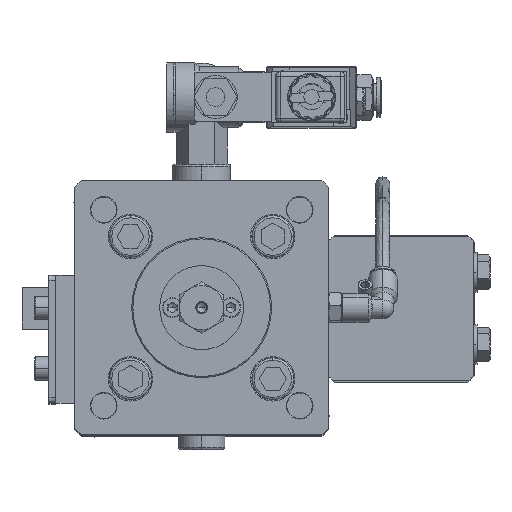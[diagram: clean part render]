
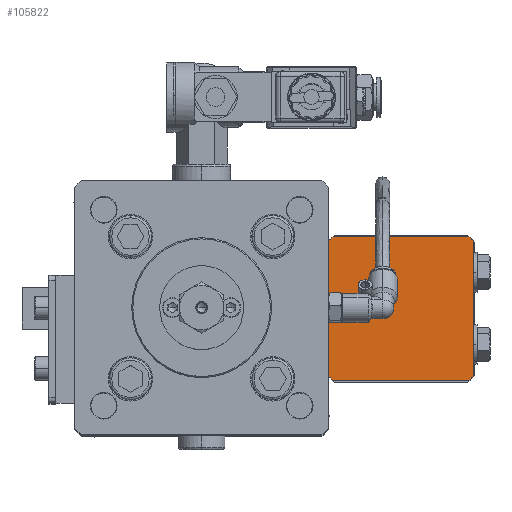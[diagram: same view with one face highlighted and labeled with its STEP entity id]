
A CAD part, top view. The second image highlights one B-rep face of the part: STEP entity #105822.
In plain terms, the highlighted planar face has unit normal (0, 0, 1) as drawn and (0, -1, 0) by its records, which use the part's own axes.
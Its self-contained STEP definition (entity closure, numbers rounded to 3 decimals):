
#701 = CARTESIAN_POINT ( 'NONE',  ( -31., 0., -29.073 ) ) ;
#2172 = CIRCLE ( 'NONE', #53087, 42.5 ) ;
#4405 = VERTEX_POINT ( 'NONE', #38820 ) ;
#13308 = ORIENTED_EDGE ( 'NONE', *, *, #70303, .F. ) ;
#13578 = EDGE_CURVE ( 'NONE', #4405, #105820, #97935, .T. ) ;
#17383 = DIRECTION ( 'NONE',  ( 0., -1., 0. ) ) ;
#17457 = EDGE_CURVE ( 'NONE', #65065, #70019, #107619, .T. ) ;
#18234 = AXIS2_PLACEMENT_3D ( 'NONE', #67158, #17383, #75472 ) ;
#19890 = CARTESIAN_POINT ( 'NONE',  ( 31., 0., -29.073 ) ) ;
#21845 = AXIS2_PLACEMENT_3D ( 'NONE', #86879, #78921, #29291 ) ;
#21950 = CARTESIAN_POINT ( 'NONE',  ( 0., 0., 0. ) ) ;
#24406 = ORIENTED_EDGE ( 'NONE', *, *, #25711, .F. ) ;
#25711 = EDGE_CURVE ( 'NONE', #44135, #80288, #79229, .T. ) ;
#26818 = DIRECTION ( 'NONE',  ( 0., 0., -1. ) ) ;
#28920 = CARTESIAN_POINT ( 'NONE',  ( -31., 0., 29.073 ) ) ;
#29291 = DIRECTION ( 'NONE',  ( 0., 0., 1. ) ) ;
#30392 = DIRECTION ( 'NONE',  ( 0., 0., 1. ) ) ;
#36309 = VERTEX_POINT ( 'NONE', #104358 ) ;
#36548 = ORIENTED_EDGE ( 'NONE', *, *, #87971, .F. ) ;
#36909 = DIRECTION ( 'NONE',  ( 0., -1., 0. ) ) ;
#37249 = EDGE_LOOP ( 'NONE', ( #55596, #13308, #43866, #94617, #90821, #24406, #104939, #36548 ) ) ;
#37293 = CARTESIAN_POINT ( 'NONE',  ( 0., 0., 0. ) ) ;
#38820 = CARTESIAN_POINT ( 'NONE',  ( -29.073, 0., 31. ) ) ;
#42382 = VECTOR ( 'NONE', #68903, 1000. ) ;
#43866 = ORIENTED_EDGE ( 'NONE', *, *, #17457, .T. ) ;
#44135 = VERTEX_POINT ( 'NONE', #62785 ) ;
#45640 = DIRECTION ( 'NONE',  ( 0., 0., 1. ) ) ;
#46364 = DIRECTION ( 'NONE',  ( 1., 0., 0. ) ) ;
#52714 = VECTOR ( 'NONE', #46364, 1000. ) ;
#53087 = AXIS2_PLACEMENT_3D ( 'NONE', #37293, #95318, #45640 ) ;
#55596 = ORIENTED_EDGE ( 'NONE', *, *, #13578, .T. ) ;
#57142 = VERTEX_POINT ( 'NONE', #90089 ) ;
#58054 = EDGE_CURVE ( 'NONE', #36309, #80288, #2172, .T. ) ;
#59610 = CIRCLE ( 'NONE', #94210, 42.5 ) ;
#62785 = CARTESIAN_POINT ( 'NONE',  ( 31., 0., 29.073 ) ) ;
#64450 = LINE ( 'NONE', #93564, #42382 ) ;
#65065 = VERTEX_POINT ( 'NONE', #701 ) ;
#67158 = CARTESIAN_POINT ( 'NONE',  ( 0., 0., 0. ) ) ;
#68903 = DIRECTION ( 'NONE',  ( -1., 0., 0. ) ) ;
#69604 = EDGE_CURVE ( 'NONE', #44135, #57142, #59610, .T. ) ;
#70019 = VERTEX_POINT ( 'NONE', #103915 ) ;
#70303 = EDGE_CURVE ( 'NONE', #65065, #105820, #102270, .T. ) ;
#70631 = PLANE ( 'NONE',  #21845 ) ;
#73778 = CARTESIAN_POINT ( 'NONE',  ( -31., 0., -31. ) ) ;
#75472 = DIRECTION ( 'NONE',  ( 0., 0., 1. ) ) ;
#76659 = VECTOR ( 'NONE', #26818, 1000. ) ;
#78921 = DIRECTION ( 'NONE',  ( 0., 1., 0. ) ) ;
#79229 = LINE ( 'NONE', #84804, #76659 ) ;
#79663 = CARTESIAN_POINT ( 'NONE',  ( -31., 0., 31. ) ) ;
#80013 = DIRECTION ( 'NONE',  ( 0., -1., 0. ) ) ;
#80153 = VECTOR ( 'NONE', #107155, 1000. ) ;
#80288 = VERTEX_POINT ( 'NONE', #19890 ) ;
#80374 = AXIS2_PLACEMENT_3D ( 'NONE', #21950, #80013, #30392 ) ;
#84804 = CARTESIAN_POINT ( 'NONE',  ( 31., 0., -31. ) ) ;
#86549 = CARTESIAN_POINT ( 'NONE',  ( 0., 0., 0. ) ) ;
#86879 = CARTESIAN_POINT ( 'NONE',  ( 0., 0., 0. ) ) ;
#87091 = FACE_OUTER_BOUND ( 'NONE', #37249, .T. ) ;
#87971 = EDGE_CURVE ( 'NONE', #4405, #57142, #99487, .T. ) ;
#90089 = CARTESIAN_POINT ( 'NONE',  ( 29.073, 0., 31. ) ) ;
#90821 = ORIENTED_EDGE ( 'NONE', *, *, #58054, .T. ) ;
#90879 = EDGE_CURVE ( 'NONE', #36309, #70019, #64450, .T. ) ;
#93564 = CARTESIAN_POINT ( 'NONE',  ( -31., 0., -31. ) ) ;
#94210 = AXIS2_PLACEMENT_3D ( 'NONE', #86549, #36909, #94926 ) ;
#94617 = ORIENTED_EDGE ( 'NONE', *, *, #90879, .F. ) ;
#94926 = DIRECTION ( 'NONE',  ( 0., 0., 1. ) ) ;
#95318 = DIRECTION ( 'NONE',  ( 0., -1., 0. ) ) ;
#97935 = CIRCLE ( 'NONE', #18234, 42.5 ) ;
#99487 = LINE ( 'NONE', #79663, #52714 ) ;
#102270 = LINE ( 'NONE', #73778, #80153 ) ;
#103915 = CARTESIAN_POINT ( 'NONE',  ( -29.073, 0., -31. ) ) ;
#104358 = CARTESIAN_POINT ( 'NONE',  ( 29.073, 0., -31. ) ) ;
#104939 = ORIENTED_EDGE ( 'NONE', *, *, #69604, .T. ) ;
#105820 = VERTEX_POINT ( 'NONE', #28920 ) ;
#105822 = ADVANCED_FACE ( 'NONE', ( #87091 ), #70631, .F. ) ;
#107155 = DIRECTION ( 'NONE',  ( 0., 0., 1. ) ) ;
#107619 = CIRCLE ( 'NONE', #80374, 42.5 ) ;
